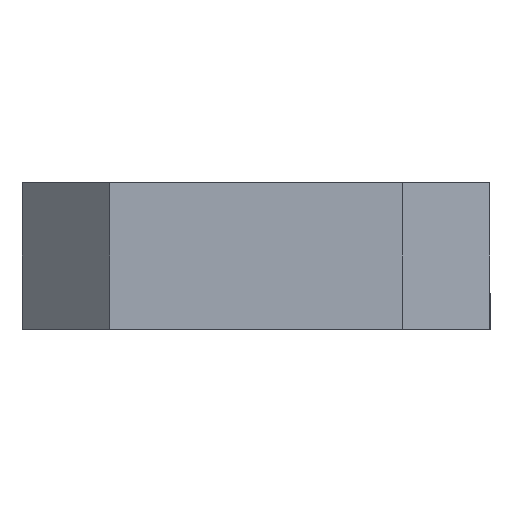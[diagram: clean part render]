
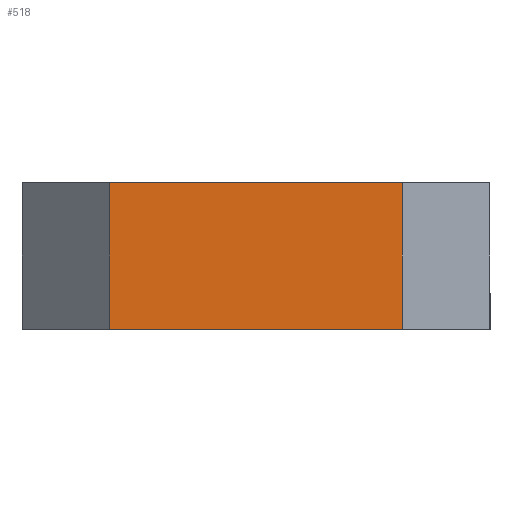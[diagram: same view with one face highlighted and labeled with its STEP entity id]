
A CAD part, left-side view. The second image highlights one B-rep face of the part: STEP entity #518.
In plain terms, the highlighted planar face has unit normal (-1, 0, 0).
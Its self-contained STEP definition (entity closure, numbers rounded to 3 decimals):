
#48 = DIRECTION ( 'NONE',  ( 0., 0., 1. ) ) ;
#62 = LINE ( 'NONE', #295, #77 ) ;
#64 = LINE ( 'NONE', #315, #321 ) ;
#74 = CARTESIAN_POINT ( 'NONE',  ( 0., -3., -5. ) ) ;
#77 = VECTOR ( 'NONE', #580, 1000. ) ;
#80 = EDGE_CURVE ( 'NONE', #302, #114, #64, .T. ) ;
#113 = FACE_OUTER_BOUND ( 'NONE', #481, .T. ) ;
#114 = VERTEX_POINT ( 'NONE', #211 ) ;
#140 = AXIS2_PLACEMENT_3D ( 'NONE', #438, #386, #239 ) ;
#173 = LINE ( 'NONE', #284, #440 ) ;
#211 = CARTESIAN_POINT ( 'NONE',  ( 0., -13., 0. ) ) ;
#229 = VERTEX_POINT ( 'NONE', #467 ) ;
#238 = CARTESIAN_POINT ( 'NONE',  ( 0., -8., 0. ) ) ;
#239 = DIRECTION ( 'NONE',  ( 0., -1., 0. ) ) ;
#254 = ORIENTED_EDGE ( 'NONE', *, *, #80, .T. ) ;
#265 = ORIENTED_EDGE ( 'NONE', *, *, #473, .F. ) ;
#280 = VECTOR ( 'NONE', #569, 1000. ) ;
#284 = CARTESIAN_POINT ( 'NONE',  ( 0., -8., -5. ) ) ;
#295 = CARTESIAN_POINT ( 'NONE',  ( 0., -3., -2.5 ) ) ;
#302 = VERTEX_POINT ( 'NONE', #308 ) ;
#303 = ORIENTED_EDGE ( 'NONE', *, *, #564, .T. ) ;
#308 = CARTESIAN_POINT ( 'NONE',  ( 0., -13., -5. ) ) ;
#315 = CARTESIAN_POINT ( 'NONE',  ( 0., -13., -2.5 ) ) ;
#316 = VERTEX_POINT ( 'NONE', #74 ) ;
#321 = VECTOR ( 'NONE', #48, 1000. ) ;
#338 = LINE ( 'NONE', #238, #280 ) ;
#386 = DIRECTION ( 'NONE',  ( -1., 0., 0. ) ) ;
#438 = CARTESIAN_POINT ( 'NONE',  ( 0., -3., -5. ) ) ;
#440 = VECTOR ( 'NONE', #583, 1000. ) ;
#467 = CARTESIAN_POINT ( 'NONE',  ( 0., -3., 0. ) ) ;
#473 = EDGE_CURVE ( 'NONE', #316, #229, #62, .T. ) ;
#481 = EDGE_LOOP ( 'NONE', ( #303, #265, #545, #254 ) ) ;
#518 = ADVANCED_FACE ( 'NONE', ( #113 ), #563, .T. ) ;
#545 = ORIENTED_EDGE ( 'NONE', *, *, #578, .F. ) ;
#563 = PLANE ( 'NONE',  #140 ) ;
#564 = EDGE_CURVE ( 'NONE', #114, #229, #338, .T. ) ;
#569 = DIRECTION ( 'NONE',  ( 0., 1., 0. ) ) ;
#578 = EDGE_CURVE ( 'NONE', #302, #316, #173, .T. ) ;
#580 = DIRECTION ( 'NONE',  ( 0., 0., 1. ) ) ;
#583 = DIRECTION ( 'NONE',  ( 0., 1., 0. ) ) ;
